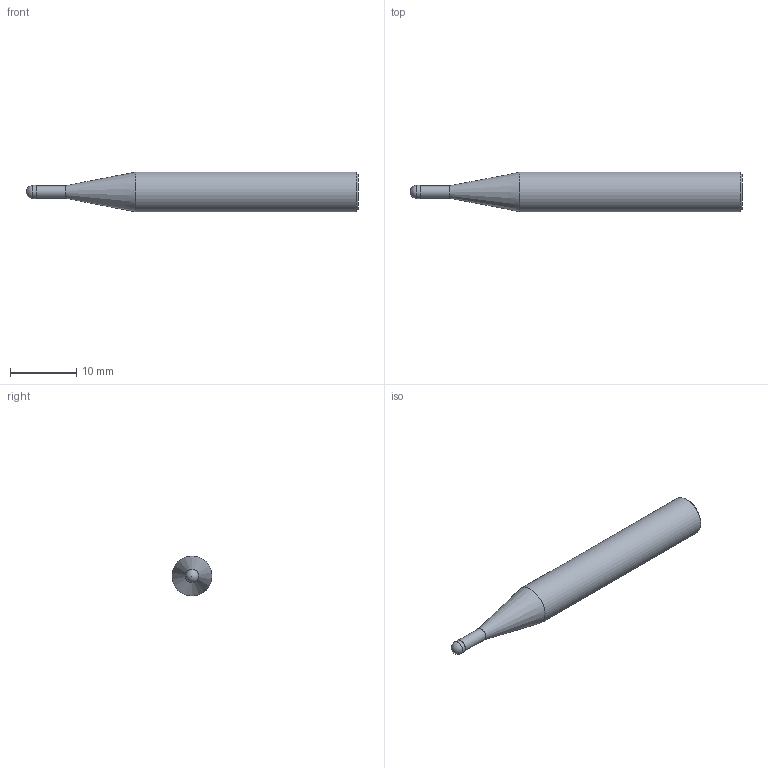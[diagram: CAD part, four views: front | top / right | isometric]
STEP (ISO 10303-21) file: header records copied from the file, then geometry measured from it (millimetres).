
FILE_DESCRIPTION(/* description */ (''),/* implementation_level */ '2;1');
FILE_NAME(/* name */ 'HSXB2020 0650.stp',/* time_stamp */ '2026-08-01T16:31:23+08:00',/* author */ (''),/* organization */ (''),/* preprocessor_version */ 'ST-DEVELOPER v16',/* originating_system */ 'SIEMENS PLM Software NX 10.0',/* authorisation */ '');
FILE_SCHEMA (('CONFIG_CONTROL_DESIGN'));
Length unit declared in the file: millimetre
Products named in the file (1): HSXB2020 0650_dxf
Bounding box: 50 x 6 x 6 mm (x, y, z)
Volume: 1102.4 mm3; surface area: 831 mm2
Topology: 2 solids, 2 shells, 9 faces, 15 edges, 9 vertices
Faces by surface type: plane 3, cylinder 3, cone 2, sphere 1
Full cylindrical faces by diameter (mm): 1.9 x1, 2 x1, 6 x1
Entity records: 246 total; most frequent: DIRECTION 34, CARTESIAN_POINT 24, AXIS2_PLACEMENT_3D 17, EDGE_LOOP 14, ORIENTED_EDGE 14, FACE_BOUND 10, ADVANCED_FACE 9, PERSON_AND_ORGANIZATION 7
